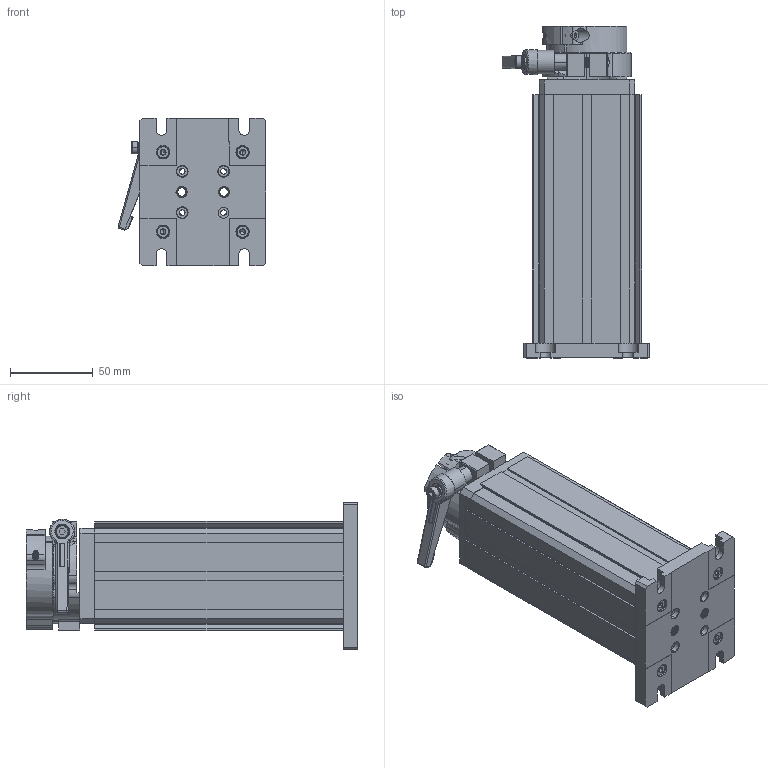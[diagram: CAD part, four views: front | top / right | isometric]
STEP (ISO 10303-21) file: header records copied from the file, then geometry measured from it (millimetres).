
FILE_DESCRIPTION((''),'2;1');
FILE_NAME('CAX-R150_ASM','2021-06-24T',('Administrator'),(''),'CREO PARAMETRIC BY PTC INC, 2015290','CREO PARAMETRIC BY PTC INC, 2015290','');
FILE_SCHEMA(('CONFIG_CONTROL_DESIGN'));
Products named in the file (13): OPS-ML; CFEP-A1_5_; M4X10_HM; PCA-K2; D3X18_AXLE; M4X12_HM; M6-16_A1; M6-16_A2; M4X14_HMZ; SPRING_6X8; M6-16_ASM; OPH_A150; CAX-R150_ASM
Assembly tree (19 placements, depth 3):
  CAX-R150_ASM
    OPS-ML
    CFEP-A1_5_
    M4X10_HM  x8
    PCA-K2
    D3X18_AXLE
    M4X12_HM
    M6-16_ASM
      M6-16_A1
      M6-16_A2
      M4X14_HMZ
      SPRING_6X8
    OPH_A150
Bounding box: 89.36 x 200.42 x 89.28 mm (x, y, z)
Volume: 344976.3 mm3; surface area: 124190.8 mm2
Topology: 18 solids, 18 shells, 1352 faces, 3380 edges, 2076 vertices
Faces by surface type: cylinder 543, plane 402, cone 215, bspline 182, torus 6, sphere 4
Entity records: 64792 total; most frequent: CARTESIAN_POINT 38545, ORIENTED_EDGE 5960, DIRECTION 4524, EDGE_CURVE 2980, VERTEX_POINT 1901, AXIS2_PLACEMENT_3D 1572, VECTOR 1380, LINE 1380
